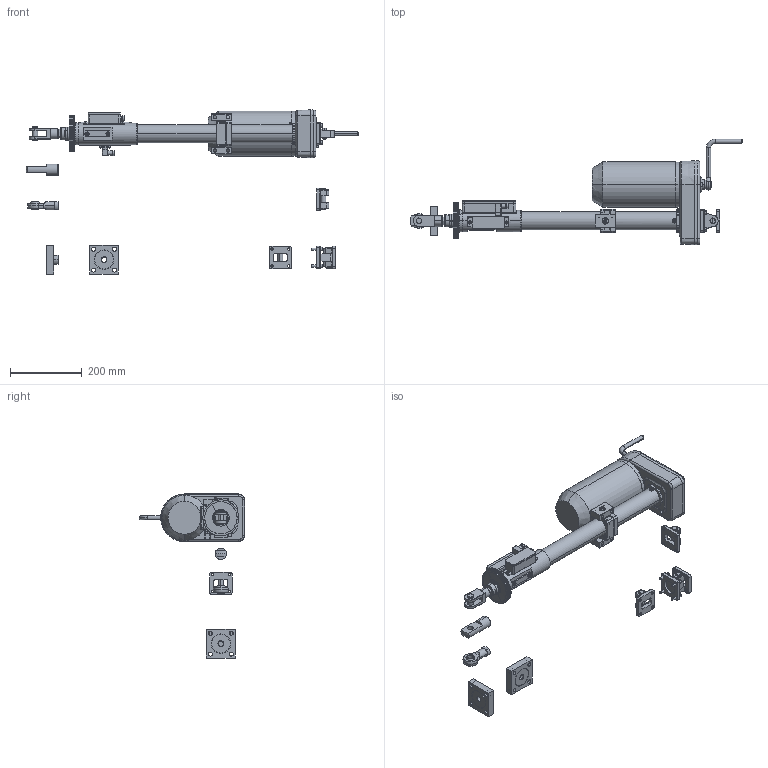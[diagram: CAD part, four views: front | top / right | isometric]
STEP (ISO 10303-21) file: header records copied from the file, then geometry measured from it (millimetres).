
FILE_DESCRIPTION (( 'STEP AP203' ), '1' );
FILE_NAME ('旆1 400.STEP', '2016-12-15T06:45:09', ( '' ), ( '' ), 'SwSTEP 2.0', 'SolidWorks 2012', '' );
FILE_SCHEMA (( 'CONFIG_CONTROL_DESIGN' ));
Length unit declared in the file: millimetre
Products named in the file (21): 旆1 400; 秮鶋趌400; 憵儴樇罻; ãàéêà äâîéíàÿ; 濱螳､ 400; 苂; ﾍ瑕 ﾑ1; Âòóëêà ñ ÄÂ; 笭; 抌暊; 俵; 眧; 畟; 眐; Ãîôð ñ1 200; 邴; ÍÔ_Œ16å1.5; îñü ôëàíöà_Œ16å1.5; 鐏鳧氀 縺膰翴籦鴀趌80; 迕_063; 迍_TI D50
Assembly tree (21 placements, depth 3):
  旆1 400
    迍_TI D50
    迕_063
    ÍÔ_Œ16å1.5
      鐏鳧氀 縺膰翴籦鴀趌80
      îñü ôëàíöà_Œ16å1.5
    邴
    Ãîôð ñ1 200
    眐
    畟  x2
    眧
    俵
    抌暊
    笭
    Âòóëêà ñ ÄÂ
    ﾍ瑕 ﾑ1
    苂
    秮鶋趌400
      濱螳､ 400
      ãàéêà äâîéíàÿ
      憵儴樇罻
Bounding box: 923 x 293.4 x 456.4 mm (x, y, z)
Volume: 584339.9 mm3; surface area: 882372.7 mm2
Topology: 10 solids, 150 shells, 2100 faces, 5667 edges, 3827 vertices
Faces by surface type: cylinder 880, plane 793, cone 232, torus 132, bspline 42, sphere 21
Entity records: 67158 total; most frequent: CARTESIAN_POINT 15204, DIRECTION 11164, ORIENTED_EDGE 9276, EDGE_CURVE 5237, AXIS2_PLACEMENT_3D 4466, VERTEX_POINT 3552, CIRCLE 2525, EDGE_LOOP 2330
